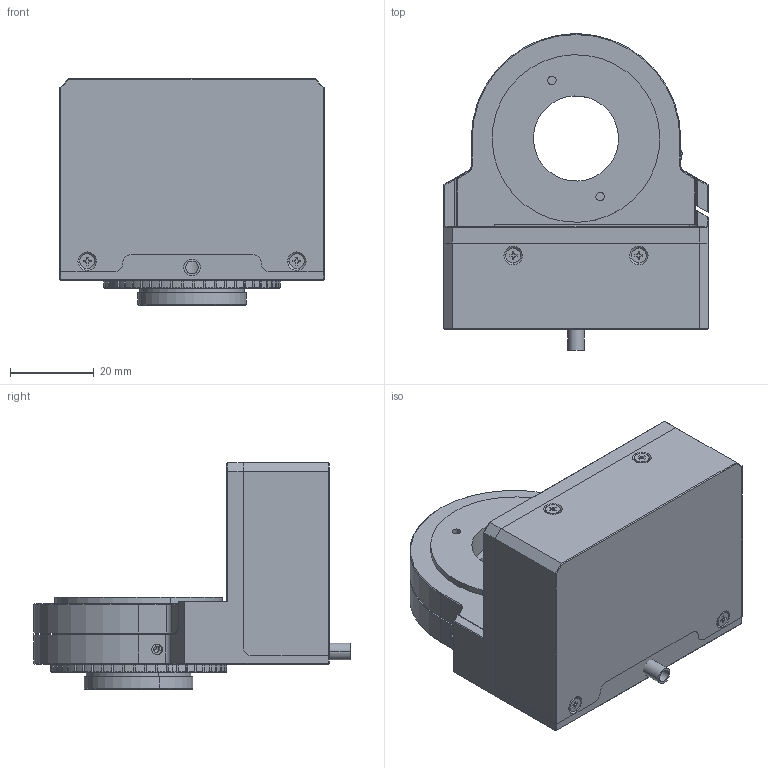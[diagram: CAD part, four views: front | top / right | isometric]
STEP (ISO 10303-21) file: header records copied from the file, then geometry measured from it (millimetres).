
FILE_DESCRIPTION (( 'STEP AP203' ), '1' );
FILE_NAME ('P73.Z500K-C1昜噩隅弇ん錨璃芞23.06.13.STEP', '2023-06-13T02:22:12', ( 'Windows User' ), ( 'P R C' ), 'SwSTEP 2.0', 'SolidWorks 2016', '' );
FILE_SCHEMA (( 'CONFIG_CONTROL_DESIGN' ));
Length unit declared in the file: millimetre
Products named in the file (1): P73.Z500K-C1昜噩隅弇ん錨璃芞23.06.13
Bounding box: 63 x 75.5 x 54 mm (x, y, z)
Volume: 86854.7 mm3; surface area: 42420.4 mm2
Topology: 10 solids, 14 shells, 717 faces, 1917 edges, 1223 vertices
Faces by surface type: cylinder 267, plane 264, cone 184, torus 2
Entity records: 23099 total; most frequent: CARTESIAN_POINT 5114, ORIENTED_EDGE 3778, DIRECTION 3776, EDGE_CURVE 1889, AXIS2_PLACEMENT_3D 1425, VERTEX_POINT 1223, LINE 926, VECTOR 926
